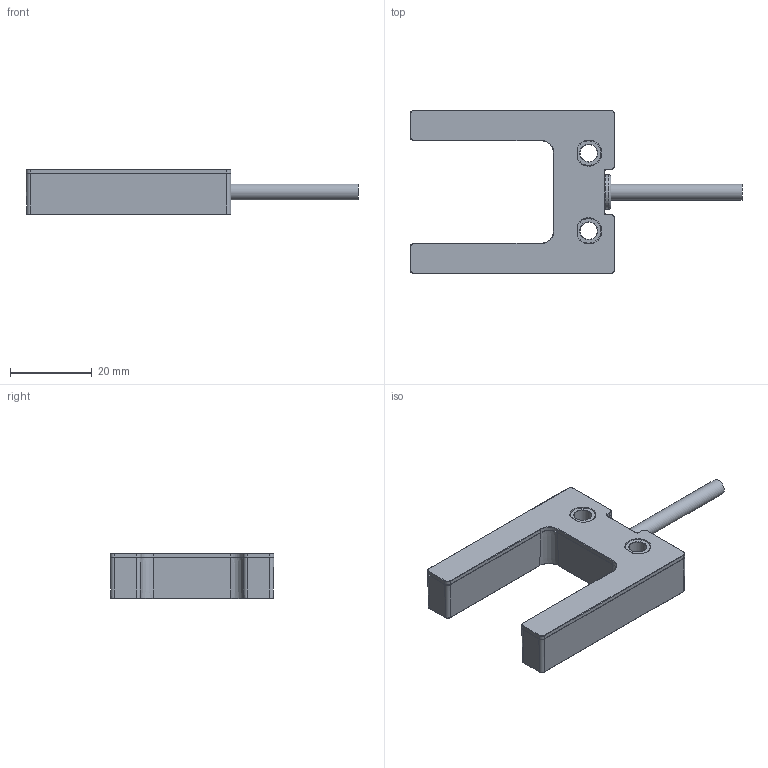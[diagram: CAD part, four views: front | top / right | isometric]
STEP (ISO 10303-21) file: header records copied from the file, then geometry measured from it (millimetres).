
FILE_DESCRIPTION(/* description */ (''),/* implementation_level */ '2;1');
FILE_NAME(/* name */ '3DCAD_GS06B_x.stp',/* time_stamp */ '2025-04-28T13:48:18+02:00',/* author */ ('CC2'),/* organization */ ('Leuze electronic'),/* preprocessor_version */ 'ST-DEVELOPER v19.4',/* originating_system */ 'SIEMENS PLM Software NX2306.9180',/* authorisation */ '');
FILE_SCHEMA (('AUTOMOTIVE_DESIGN { 1 0 10303 214 3 1 1 1 }'));
Length unit declared in the file: millimetre
Products named in the file (1): 19-103871_00_1-3DCAD_GS06B_x
Bounding box: 81.07 x 40 x 11.2 mm (x, y, z)
Volume: 5991.6 mm3; surface area: 10904.4 mm2
Topology: 2 solids, 2 shells, 391 faces, 1041 edges, 671 vertices
Faces by surface type: plane 212, cylinder 83, cone 53, torus 29, extrusion 14
Full cylindrical faces by diameter (mm): 3.9 x2, 4.2 x2, 5.5 x1, 5.964 x1, 6.9 x1, 8.5 x1
Entity records: 12301 total; most frequent: CARTESIAN_POINT 2542, ORIENTED_EDGE 2046, DIRECTION 1985, EDGE_CURVE 1023, VERTEX_POINT 667, AXIS2_PLACEMENT_3D 663, VECTOR 659, LINE 645
